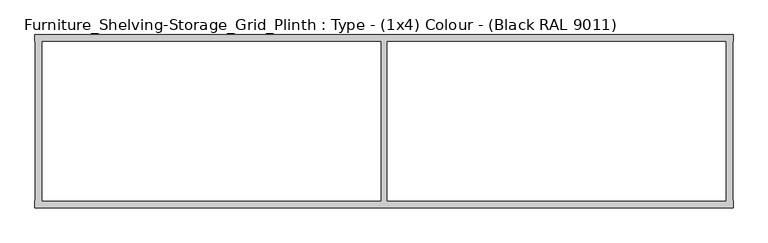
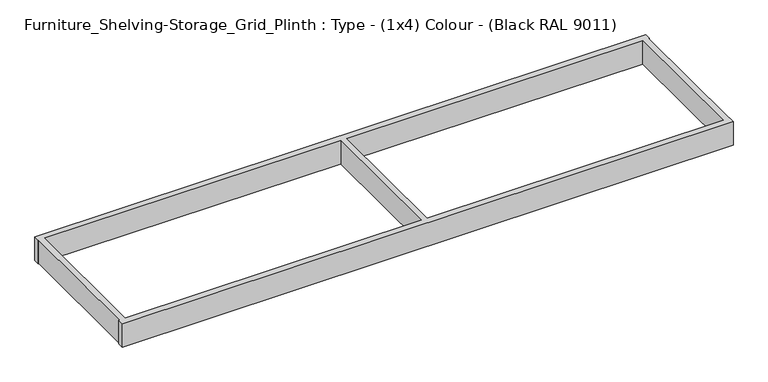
"""IFC4 building model written with IfcOpenShell, lengths in millimetres: furniture geometry, Furniture_Shelving-Storage_Grid_Plinth : Type - (1x4) Colour - (Black RAL 9011)."""

from ifc_helpers import new_model, si_unit, frame, origin, place, context, project, spatial, polyline, outline, extrude, source, transform, mapped, element, save


def furniture_shelving_storage_grid_plinth_type_1x4_colour_black_6eff8f26(model_context):
    return source(origin(), model_context, "Body", "SweptSolid", [
        extrude(outline(polyline([(-197.4999086, -182.4999649), (-197.4999086, 182.5000351), (-198.4999086, 182.5000351), (-198.4999086, 198.5000351), (1401.5000914, 198.5000351), (1401.5000914, 182.5000351), (1400.5000914, 182.5000351), (1400.5000914, -182.4999649), (1401.5000914, -182.4999649), (1401.5000914, -198.4999649), (-198.4999086, -198.4999649), (-198.4999086, -182.4999649), (-197.4999086, -182.4999649)]), holes=[polyline([(593.5000914, -182.4999649), (593.5000914, 182.5000351), (-181.4999086, 182.5000351), (-181.4999086, -182.4999649), (593.5000914, -182.4999649)]), polyline([(609.5000914, -182.4999649), (1384.5000914, -182.4999649), (1384.5000914, 182.5000351), (609.5000914, 182.5000351), (609.5000914, -182.4999649)])]), frame((0.0, 0.0, -65.0), z_axis=(0.0, 0.0, 1.0), x_axis=(1.0, 0.0, 0.0)), (0.0, 0.0, 1.0), 65.0),
    ])


if __name__ == "__main__":
    model = new_model("IFC4")
    model_context = context("Model", 3, world=origin())
    ifc_project = project(units=[si_unit("LENGTHUNIT", "METRE", prefix="MILLI")], contexts=[model_context])
    site = spatial("IfcSite", under=ifc_project)
    building = spatial("IfcBuilding", under=site)
    placement = place(None, origin())
    furniture_shelving_storage_grid_plinth_type_1x4_colour_black_shape = furniture_shelving_storage_grid_plinth_type_1x4_colour_black_6eff8f26(model_context)
    element("IfcFurniture", 1, ObjectType="Furniture_Shelving-Storage_Grid_Plinth : Type - (1x4) Colour - (Black RAL 9011)", at=placement, inside=building, context=model_context, shape_type="MappedRepresentation", body=[
        mapped(furniture_shelving_storage_grid_plinth_type_1x4_colour_black_shape, transform((0.0, 0.0, 0.0), x_axis=(1.0, 0.0, 0.0), y_axis=(0.0, 1.0, 0.0), z_axis=(0.0, 0.0, 1.0))),
    ])
    save(model, "model.ifc")
